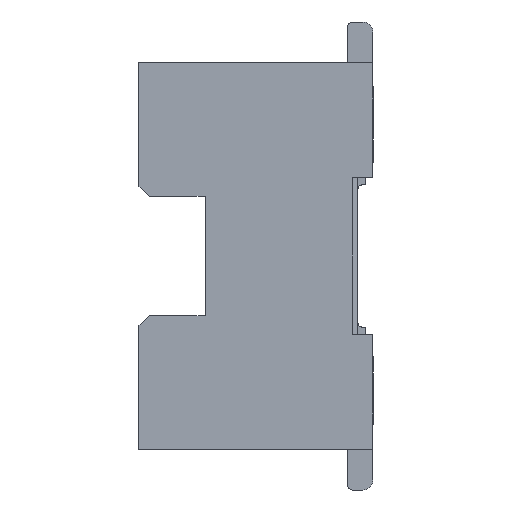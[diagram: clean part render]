
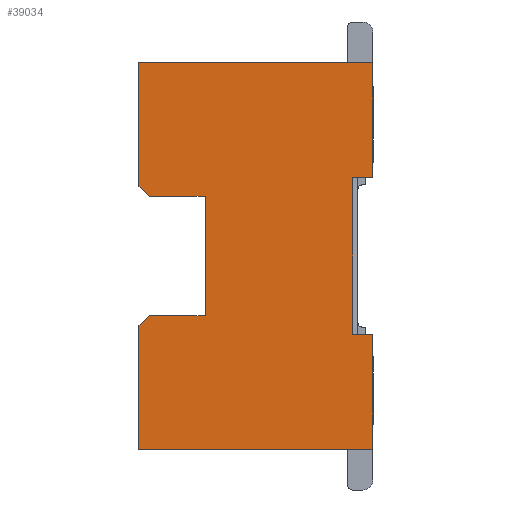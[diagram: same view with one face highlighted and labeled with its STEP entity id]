
A CAD part, left-side view. The second image highlights one B-rep face of the part: STEP entity #39034.
In plain terms, the highlighted planar face has unit normal (-1, 0, 0).
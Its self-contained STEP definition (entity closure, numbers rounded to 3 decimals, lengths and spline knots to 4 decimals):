
#609=DIRECTION('',(0.,1.,0.));
#610=VECTOR('',#609,2.3);
#611=CARTESIAN_POINT('',(-2.,0.,-4.2));
#612=LINE('',#611,#610);
#613=DIRECTION('',(0.,0.,1.));
#614=VECTOR('',#613,1.215);
#615=CARTESIAN_POINT('',(-2.,2.3,-4.2));
#616=LINE('',#615,#614);
#617=DIRECTION('',(0.,-0.707,0.707));
#618=VECTOR('',#617,0.1414);
#619=CARTESIAN_POINT('',(-2.,2.3,-2.985));
#620=LINE('',#619,#618);
#621=DIRECTION('',(0.,0.707,0.707));
#622=VECTOR('',#621,0.1414);
#623=CARTESIAN_POINT('',(-2.,2.2,-1.715));
#624=LINE('',#623,#622);
#625=DIRECTION('',(0.,0.,1.));
#626=VECTOR('',#625,1.215);
#627=CARTESIAN_POINT('',(-2.,2.3,-1.615));
#628=LINE('',#627,#626);
#629=DIRECTION('',(0.,-1.,0.));
#630=VECTOR('',#629,2.3);
#631=CARTESIAN_POINT('',(-2.,2.3,-0.4));
#632=LINE('',#631,#630);
#633=DIRECTION('',(0.,0.,1.));
#634=VECTOR('',#633,1.54);
#635=CARTESIAN_POINT('',(-2.,0.2,-3.07));
#636=LINE('',#635,#634);
#665=DIRECTION('',(0.,0.,1.));
#666=VECTOR('',#665,1.13);
#667=CARTESIAN_POINT('',(-2.,0.,-1.53));
#668=LINE('',#667,#666);
#689=DIRECTION('',(0.,-1.,0.));
#690=VECTOR('',#689,0.2);
#691=CARTESIAN_POINT('',(-2.,0.2,-1.53));
#692=LINE('',#691,#690);
#801=DIRECTION('',(0.,0.,1.));
#802=VECTOR('',#801,1.13);
#803=CARTESIAN_POINT('',(-2.,0.,-4.2));
#804=LINE('',#803,#802);
#809=DIRECTION('',(0.,1.,0.));
#810=VECTOR('',#809,0.2);
#811=CARTESIAN_POINT('',(-2.,0.,-3.07));
#812=LINE('',#811,#810);
#6896=DIRECTION('',(0.,-1.,0.));
#6897=VECTOR('',#6896,0.55);
#6898=CARTESIAN_POINT('',(-2.,2.2,-1.715));
#6899=LINE('',#6898,#6897);
#6912=DIRECTION('',(0.,0.,-1.));
#6913=VECTOR('',#6912,1.17);
#6914=CARTESIAN_POINT('',(-2.,1.65,-1.715));
#6915=LINE('',#6914,#6913);
#6936=DIRECTION('',(0.,1.,0.));
#6937=VECTOR('',#6936,0.55);
#6938=CARTESIAN_POINT('',(-2.,1.65,-2.885));
#6939=LINE('',#6938,#6937);
#28073=CARTESIAN_POINT('',(-2.,2.3,-0.4));
#28074=CARTESIAN_POINT('',(-2.,0.,-0.4));
#28075=VERTEX_POINT('',#28073);
#28076=VERTEX_POINT('',#28074);
#29439=CARTESIAN_POINT('',(-2.,0.,-4.2));
#29440=CARTESIAN_POINT('',(-2.,2.3,-4.2));
#29441=VERTEX_POINT('',#29439);
#29442=VERTEX_POINT('',#29440);
#29639=CARTESIAN_POINT('',(-2.,2.3,-2.985));
#29640=VERTEX_POINT('',#29639);
#29791=CARTESIAN_POINT('',(-2.,2.3,-1.615));
#29792=VERTEX_POINT('',#29791);
#29919=CARTESIAN_POINT('',(-2.,2.2,-2.885));
#29920=VERTEX_POINT('',#29919);
#29921=CARTESIAN_POINT('',(-2.,2.2,-1.715));
#29922=VERTEX_POINT('',#29921);
#29923=CARTESIAN_POINT('',(-2.,0.2,-3.07));
#29924=CARTESIAN_POINT('',(-2.,0.2,-1.53));
#29925=VERTEX_POINT('',#29923);
#29926=VERTEX_POINT('',#29924);
#29953=CARTESIAN_POINT('',(-2.,0.,-1.53));
#29954=VERTEX_POINT('',#29953);
#29989=CARTESIAN_POINT('',(-2.,0.,-3.07));
#29990=VERTEX_POINT('',#29989);
#31620=CARTESIAN_POINT('',(-2.,1.65,-1.715));
#31621=VERTEX_POINT('',#31620);
#31622=CARTESIAN_POINT('',(-2.,1.65,-2.885));
#31623=VERTEX_POINT('',#31622);
#39003=CARTESIAN_POINT('',(-2.,1.15,-2.3));
#39004=DIRECTION('',(1.,0.,0.));
#39005=DIRECTION('',(0.,-1.,0.));
#39006=AXIS2_PLACEMENT_3D('',#39003,#39004,#39005);
#39007=PLANE('',#39006);
#39009=ORIENTED_EDGE('',*,*,#39008,.F.);
#39011=ORIENTED_EDGE('',*,*,#39010,.F.);
#39013=ORIENTED_EDGE('',*,*,#39012,.F.);
#39014=ORIENTED_EDGE('',*,*,#37953,.T.);
#39015=ORIENTED_EDGE('',*,*,#38280,.T.);
#39017=ORIENTED_EDGE('',*,*,#39016,.T.);
#39019=ORIENTED_EDGE('',*,*,#39018,.F.);
#39021=ORIENTED_EDGE('',*,*,#39020,.F.);
#39023=ORIENTED_EDGE('',*,*,#39022,.F.);
#39025=ORIENTED_EDGE('',*,*,#39024,.T.);
#39026=ORIENTED_EDGE('',*,*,#38827,.T.);
#39027=ORIENTED_EDGE('',*,*,#36754,.T.);
#39029=ORIENTED_EDGE('',*,*,#39028,.F.);
#39031=ORIENTED_EDGE('',*,*,#39030,.F.);
#39032=EDGE_LOOP('',(#39009,#39011,#39013,#39014,#39015,#39017,#39019,#39021,
#39023,#39025,#39026,#39027,#39029,#39031));
#39033=FACE_OUTER_BOUND('',#39032,.F.);
#36754=EDGE_CURVE('',#28075,#28076,#632,.T.);
#37953=EDGE_CURVE('',#29441,#29442,#612,.T.);
#38280=EDGE_CURVE('',#29442,#29640,#616,.T.);
#38827=EDGE_CURVE('',#29792,#28075,#628,.T.);
#39008=EDGE_CURVE('',#29925,#29926,#636,.T.);
#39010=EDGE_CURVE('',#29990,#29925,#812,.T.);
#39012=EDGE_CURVE('',#29441,#29990,#804,.T.);
#39016=EDGE_CURVE('',#29640,#29920,#620,.T.);
#39018=EDGE_CURVE('',#31623,#29920,#6939,.T.);
#39020=EDGE_CURVE('',#31621,#31623,#6915,.T.);
#39022=EDGE_CURVE('',#29922,#31621,#6899,.T.);
#39024=EDGE_CURVE('',#29922,#29792,#624,.T.);
#39028=EDGE_CURVE('',#29954,#28076,#668,.T.);
#39030=EDGE_CURVE('',#29926,#29954,#692,.T.);
#39034=ADVANCED_FACE('',(#39033),#39007,.F.);
